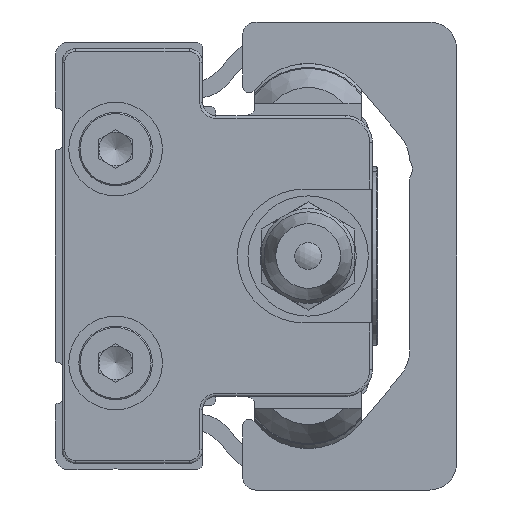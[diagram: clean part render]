
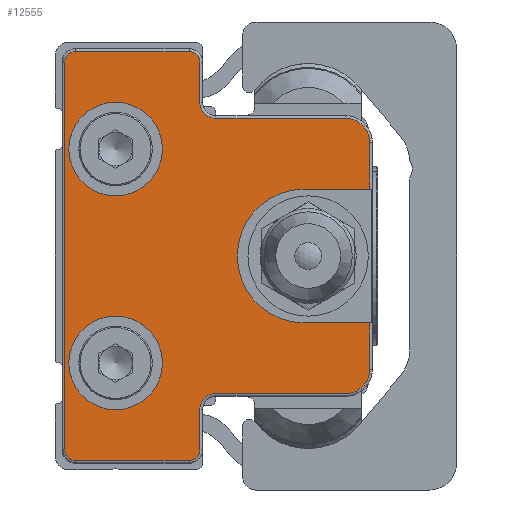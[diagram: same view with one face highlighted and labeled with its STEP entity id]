
A CAD part, left-side view. The second image highlights one B-rep face of the part: STEP entity #12555.
In plain terms, the highlighted planar face has unit normal (-1, 0, 0) as drawn and (0, 0, 1) by its records, which use the part's own axes.
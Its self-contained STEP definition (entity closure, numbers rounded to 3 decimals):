
#649=PLANE('',#13930);
#1503=LINE('',#21533,#2410);
#1504=LINE('',#21536,#2411);
#1505=LINE('',#21540,#2412);
#1506=LINE('',#21544,#2413);
#1507=LINE('',#21548,#2414);
#1508=LINE('',#21552,#2415);
#1509=LINE('',#21556,#2416);
#1510=LINE('',#21560,#2417);
#1511=LINE('',#21564,#2418);
#1512=LINE('',#21568,#2419);
#1513=LINE('',#21570,#2420);
#2410=VECTOR('',#17357,1000.);
#2411=VECTOR('',#17358,1000.);
#2412=VECTOR('',#17361,1000.);
#2413=VECTOR('',#17364,1000.);
#2414=VECTOR('',#17367,1000.);
#2415=VECTOR('',#17370,1000.);
#2416=VECTOR('',#17373,1000.);
#2417=VECTOR('',#17376,1000.);
#2418=VECTOR('',#17379,1000.);
#2419=VECTOR('',#17382,1000.);
#2420=VECTOR('',#17383,1000.);
#5410=ORIENTED_EDGE('',*,*,#7456,.F.);
#5411=ORIENTED_EDGE('',*,*,#7457,.F.);
#5412=ORIENTED_EDGE('',*,*,#7458,.F.);
#5413=ORIENTED_EDGE('',*,*,#7459,.T.);
#5414=ORIENTED_EDGE('',*,*,#7460,.T.);
#5415=ORIENTED_EDGE('',*,*,#7461,.T.);
#5416=ORIENTED_EDGE('',*,*,#7462,.T.);
#5417=ORIENTED_EDGE('',*,*,#7463,.T.);
#5418=ORIENTED_EDGE('',*,*,#7464,.T.);
#5419=ORIENTED_EDGE('',*,*,#7465,.T.);
#5420=ORIENTED_EDGE('',*,*,#7466,.T.);
#5421=ORIENTED_EDGE('',*,*,#7467,.T.);
#5422=ORIENTED_EDGE('',*,*,#7468,.T.);
#5423=ORIENTED_EDGE('',*,*,#7469,.T.);
#5424=ORIENTED_EDGE('',*,*,#7470,.T.);
#5425=ORIENTED_EDGE('',*,*,#7471,.T.);
#5426=ORIENTED_EDGE('',*,*,#7472,.T.);
#5427=ORIENTED_EDGE('',*,*,#7473,.T.);
#5428=ORIENTED_EDGE('',*,*,#7474,.T.);
#5429=ORIENTED_EDGE('',*,*,#7475,.T.);
#5430=ORIENTED_EDGE('',*,*,#7476,.F.);
#5431=ORIENTED_EDGE('',*,*,#7477,.F.);
#7456=EDGE_CURVE('',#8774,#8774,#9501,.T.);
#7457=EDGE_CURVE('',#8775,#8775,#9502,.T.);
#7458=EDGE_CURVE('',#8776,#8777,#1503,.T.);
#7459=EDGE_CURVE('',#8776,#8778,#1504,.T.);
#7460=EDGE_CURVE('',#8778,#8779,#9503,.T.);
#7461=EDGE_CURVE('',#8779,#8780,#1505,.T.);
#7462=EDGE_CURVE('',#8780,#8781,#9504,.F.);
#7463=EDGE_CURVE('',#8781,#8782,#1506,.T.);
#7464=EDGE_CURVE('',#8782,#8783,#9505,.T.);
#7465=EDGE_CURVE('',#8783,#8784,#1507,.T.);
#7466=EDGE_CURVE('',#8784,#8785,#9506,.T.);
#7467=EDGE_CURVE('',#8785,#8786,#1508,.T.);
#7468=EDGE_CURVE('',#8786,#8787,#9507,.T.);
#7469=EDGE_CURVE('',#8787,#8788,#1509,.T.);
#7470=EDGE_CURVE('',#8788,#8789,#9508,.T.);
#7471=EDGE_CURVE('',#8789,#8790,#1510,.T.);
#7472=EDGE_CURVE('',#8790,#8791,#9509,.F.);
#7473=EDGE_CURVE('',#8791,#8792,#1511,.T.);
#7474=EDGE_CURVE('',#8792,#8793,#9510,.T.);
#7475=EDGE_CURVE('',#8793,#8794,#1512,.T.);
#7476=EDGE_CURVE('',#8795,#8794,#1513,.T.);
#7477=EDGE_CURVE('',#8777,#8795,#9511,.T.);
#8774=VERTEX_POINT('',#21530);
#8775=VERTEX_POINT('',#21532);
#8776=VERTEX_POINT('',#21534);
#8777=VERTEX_POINT('',#21535);
#8778=VERTEX_POINT('',#21537);
#8779=VERTEX_POINT('',#21539);
#8780=VERTEX_POINT('',#21541);
#8781=VERTEX_POINT('',#21543);
#8782=VERTEX_POINT('',#21545);
#8783=VERTEX_POINT('',#21547);
#8784=VERTEX_POINT('',#21549);
#8785=VERTEX_POINT('',#21551);
#8786=VERTEX_POINT('',#21553);
#8787=VERTEX_POINT('',#21555);
#8788=VERTEX_POINT('',#21557);
#8789=VERTEX_POINT('',#21559);
#8790=VERTEX_POINT('',#21561);
#8791=VERTEX_POINT('',#21563);
#8792=VERTEX_POINT('',#21565);
#8793=VERTEX_POINT('',#21567);
#8794=VERTEX_POINT('',#21569);
#8795=VERTEX_POINT('',#21571);
#9501=CIRCLE('',#13931,3.5);
#9502=CIRCLE('',#13932,3.5);
#9503=CIRCLE('',#13933,1.8);
#9504=CIRCLE('',#13934,1.2);
#9505=CIRCLE('',#13935,0.8);
#9506=CIRCLE('',#13936,0.8);
#9507=CIRCLE('',#13937,0.8);
#9508=CIRCLE('',#13938,0.8);
#9509=CIRCLE('',#13939,1.2);
#9510=CIRCLE('',#13940,1.8);
#9511=CIRCLE('',#13941,5.);
#10463=EDGE_LOOP('',(#5410));
#10464=EDGE_LOOP('',(#5411));
#10465=EDGE_LOOP('',(#5412,#5413,#5414,#5415,#5416,#5417,#5418,#5419,#5420,
#5421,#5422,#5423,#5424,#5425,#5426,#5427,#5428,#5429,#5430,#5431));
#11494=FACE_BOUND('',#10463,.T.);
#11495=FACE_BOUND('',#10464,.T.);
#11496=FACE_BOUND('',#10465,.T.);
#12555=ADVANCED_FACE('',(#11494,#11495,#11496),#649,.T.);
#13930=AXIS2_PLACEMENT_3D('',#21528,#17351,#17352);
#13931=AXIS2_PLACEMENT_3D('',#21529,#17353,#17354);
#13932=AXIS2_PLACEMENT_3D('',#21531,#17355,#17356);
#13933=AXIS2_PLACEMENT_3D('',#21538,#17359,#17360);
#13934=AXIS2_PLACEMENT_3D('',#21542,#17362,#17363);
#13935=AXIS2_PLACEMENT_3D('',#21546,#17365,#17366);
#13936=AXIS2_PLACEMENT_3D('',#21550,#17368,#17369);
#13937=AXIS2_PLACEMENT_3D('',#21554,#17371,#17372);
#13938=AXIS2_PLACEMENT_3D('',#21558,#17374,#17375);
#13939=AXIS2_PLACEMENT_3D('',#21562,#17377,#17378);
#13940=AXIS2_PLACEMENT_3D('',#21566,#17380,#17381);
#13941=AXIS2_PLACEMENT_3D('',#21572,#17384,#17385);
#17351=DIRECTION('',(0.,0.,1.));
#17352=DIRECTION('',(1.,0.,0.));
#17353=DIRECTION('',(0.,0.,1.));
#17354=DIRECTION('',(1.,0.,0.));
#17355=DIRECTION('',(0.,0.,1.));
#17356=DIRECTION('',(1.,0.,0.));
#17357=DIRECTION('',(0.,1.,0.));
#17358=DIRECTION('',(1.,0.,0.));
#17359=DIRECTION('',(0.,0.,1.));
#17360=DIRECTION('',(1.,0.,0.));
#17361=DIRECTION('',(0.,1.,0.));
#17362=DIRECTION('',(0.,0.,1.));
#17363=DIRECTION('',(1.,0.,0.));
#17364=DIRECTION('',(1.,0.,0.));
#17365=DIRECTION('',(0.,0.,1.));
#17366=DIRECTION('',(1.,0.,0.));
#17367=DIRECTION('',(0.,1.,0.));
#17368=DIRECTION('',(0.,0.,1.));
#17369=DIRECTION('',(1.,0.,0.));
#17370=DIRECTION('',(-1.,0.,0.));
#17371=DIRECTION('',(0.,0.,1.));
#17372=DIRECTION('',(1.,0.,0.));
#17373=DIRECTION('',(0.,-1.,0.));
#17374=DIRECTION('',(0.,0.,1.));
#17375=DIRECTION('',(1.,0.,0.));
#17376=DIRECTION('',(1.,0.,0.));
#17377=DIRECTION('',(0.,0.,1.));
#17378=DIRECTION('',(1.,0.,0.));
#17379=DIRECTION('',(0.,-1.,0.));
#17380=DIRECTION('',(0.,0.,1.));
#17381=DIRECTION('',(1.,0.,0.));
#17382=DIRECTION('',(1.,0.,0.));
#17383=DIRECTION('',(0.,-1.,0.));
#17384=DIRECTION('',(0.,0.,1.));
#17385=DIRECTION('',(1.,0.,0.));
#21528=CARTESIAN_POINT('',(-14.5,-9.5,4.8));
#21529=CARTESIAN_POINT('',(-8.,-4.,4.8));
#21530=CARTESIAN_POINT('',(-4.5,-4.,4.8));
#21531=CARTESIAN_POINT('',(8.,-4.,4.8));
#21532=CARTESIAN_POINT('',(11.5,-4.,4.8));
#21533=CARTESIAN_POINT('',(5.,-24.1,4.8));
#21534=CARTESIAN_POINT('',(5.,-23.,4.8));
#21535=CARTESIAN_POINT('',(5.,-18.1,4.8));
#21536=CARTESIAN_POINT('',(8.5,-23.,4.8));
#21537=CARTESIAN_POINT('',(8.5,-23.,4.8));
#21538=CARTESIAN_POINT('',(8.5,-21.2,4.8));
#21539=CARTESIAN_POINT('',(10.3,-21.2,4.8));
#21540=CARTESIAN_POINT('',(10.3,-11.5,4.8));
#21541=CARTESIAN_POINT('',(10.3,-11.5,4.8));
#21542=CARTESIAN_POINT('',(11.5,-11.5,4.8));
#21543=CARTESIAN_POINT('',(11.5,-10.3,4.8));
#21544=CARTESIAN_POINT('',(14.5,-10.3,4.8));
#21545=CARTESIAN_POINT('',(14.5,-10.3,4.8));
#21546=CARTESIAN_POINT('',(14.5,-9.5,4.8));
#21547=CARTESIAN_POINT('',(15.3,-9.5,4.8));
#21548=CARTESIAN_POINT('',(15.3,-1.,4.8));
#21549=CARTESIAN_POINT('',(15.3,-1.,4.8));
#21550=CARTESIAN_POINT('',(14.5,-1.,4.8));
#21551=CARTESIAN_POINT('',(14.5,-0.2,4.8));
#21552=CARTESIAN_POINT('',(-14.5,-0.2,4.8));
#21553=CARTESIAN_POINT('',(-14.5,-0.2,4.8));
#21554=CARTESIAN_POINT('',(-14.5,-1.,4.8));
#21555=CARTESIAN_POINT('',(-15.3,-1.,4.8));
#21556=CARTESIAN_POINT('',(-15.3,-9.5,4.8));
#21557=CARTESIAN_POINT('',(-15.3,-9.5,4.8));
#21558=CARTESIAN_POINT('',(-14.5,-9.5,4.8));
#21559=CARTESIAN_POINT('',(-14.5,-10.3,4.8));
#21560=CARTESIAN_POINT('',(-11.5,-10.3,4.8));
#21561=CARTESIAN_POINT('',(-11.5,-10.3,4.8));
#21562=CARTESIAN_POINT('',(-11.5,-11.5,4.8));
#21563=CARTESIAN_POINT('',(-10.3,-11.5,4.8));
#21564=CARTESIAN_POINT('',(-10.3,-21.2,4.8));
#21565=CARTESIAN_POINT('',(-10.3,-21.2,4.8));
#21566=CARTESIAN_POINT('',(-8.5,-21.2,4.8));
#21567=CARTESIAN_POINT('',(-8.5,-23.,4.8));
#21568=CARTESIAN_POINT('',(-5.,-23.,4.8));
#21569=CARTESIAN_POINT('',(-5.,-23.,4.8));
#21570=CARTESIAN_POINT('',(-5.,-18.1,4.8));
#21571=CARTESIAN_POINT('',(-5.,-18.1,4.8));
#21572=CARTESIAN_POINT('',(0.,-18.1,4.8));
